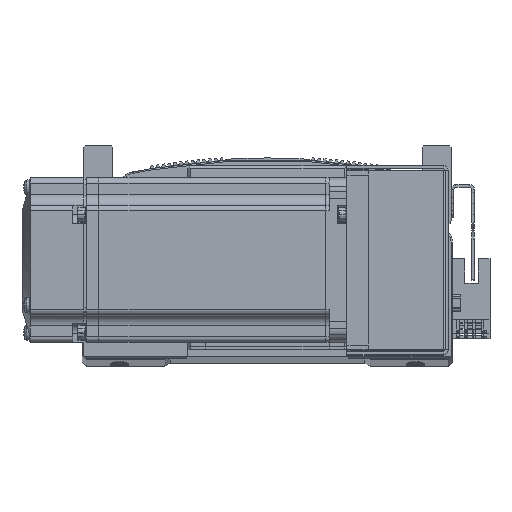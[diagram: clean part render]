
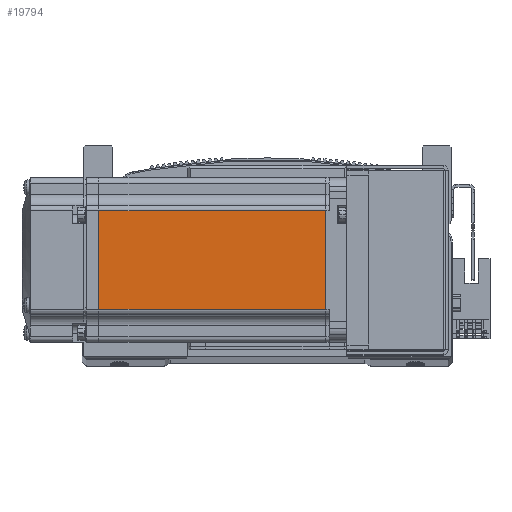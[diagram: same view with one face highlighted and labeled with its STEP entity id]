
A CAD part, top view. The second image highlights one B-rep face of the part: STEP entity #19794.
In plain terms, the highlighted planar face has unit normal (0, 0, 1) as drawn and (0, -1, 0) by its records, which use the part's own axes.
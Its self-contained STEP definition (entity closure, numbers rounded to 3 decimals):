
#8001 = PLANE ( 'NONE',  #45900 ) ;
#8002 = DIRECTION ( 'NONE',  ( 0., -1., 0. ) ) ;
#8003 = CARTESIAN_POINT ( 'NONE',  ( -6.5, -30., -25. ) ) ;
#8017 = DIRECTION ( 'NONE',  ( 0., 0., -1. ) ) ;
#10996 = VERTEX_POINT ( 'NONE', #61264 ) ;
#11044 = VERTEX_POINT ( 'NONE', #61316 ) ;
#11054 = VERTEX_POINT ( 'NONE', #61306 ) ;
#11062 = VERTEX_POINT ( 'NONE', #61307 ) ;
#19794 = ADVANCED_FACE ( 'NONE', ( #65174 ), #8001, .T. ) ;
#20965 = EDGE_LOOP ( 'NONE', ( #35231, #35180, #35290, #35204 ) ) ;
#35180 = ORIENTED_EDGE ( 'NONE', *, *, #53124, .T. ) ;
#35204 = ORIENTED_EDGE ( 'NONE', *, *, #53112, .F. ) ;
#35231 = ORIENTED_EDGE ( 'NONE', *, *, #53097, .F. ) ;
#35290 = ORIENTED_EDGE ( 'NONE', *, *, #53100, .T. ) ;
#45900 = AXIS2_PLACEMENT_3D ( 'NONE', #8003, #8002, #8017 ) ;
#48778 = CARTESIAN_POINT ( 'NONE',  ( -7.75, -30., 0. ) ) ;
#48779 = DIRECTION ( 'NONE',  ( 0., 0., -1. ) ) ;
#48795 = DIRECTION ( 'NONE',  ( 0., 0., -1. ) ) ;
#48796 = CARTESIAN_POINT ( 'NONE',  ( -90.45, -30., 0. ) ) ;
#48879 = DIRECTION ( 'NONE',  ( -1., 0., 0. ) ) ;
#48885 = CARTESIAN_POINT ( 'NONE',  ( -6.5, -30., -18. ) ) ;
#48953 = CARTESIAN_POINT ( 'NONE',  ( -6.5, -30., 18. ) ) ;
#48989 = DIRECTION ( 'NONE',  ( -1., 0., 0. ) ) ;
#53097 = EDGE_CURVE ( 'NONE', #11062, #11054, #58998, .T. ) ;
#53100 = EDGE_CURVE ( 'NONE', #11044, #10996, #59018, .T. ) ;
#53112 = EDGE_CURVE ( 'NONE', #11054, #10996, #59082, .T. ) ;
#53124 = EDGE_CURVE ( 'NONE', #11062, #11044, #59066, .T. ) ;
#58998 = LINE ( 'NONE', #48778, #59021 ) ;
#59018 = LINE ( 'NONE', #48796, #59029 ) ;
#59021 = VECTOR ( 'NONE', #48795, 1000. ) ;
#59029 = VECTOR ( 'NONE', #48779, 1000. ) ;
#59058 = VECTOR ( 'NONE', #48879, 1000. ) ;
#59066 = LINE ( 'NONE', #48953, #59083 ) ;
#59082 = LINE ( 'NONE', #48885, #59058 ) ;
#59083 = VECTOR ( 'NONE', #48989, 1000. ) ;
#61264 = CARTESIAN_POINT ( 'NONE',  ( -90.45, -30., -18. ) ) ;
#61306 = CARTESIAN_POINT ( 'NONE',  ( -7.75, -30., -18. ) ) ;
#61307 = CARTESIAN_POINT ( 'NONE',  ( -7.75, -30., 18. ) ) ;
#61316 = CARTESIAN_POINT ( 'NONE',  ( -90.45, -30., 18. ) ) ;
#65174 = FACE_OUTER_BOUND ( 'NONE', #20965, .T. ) ;
